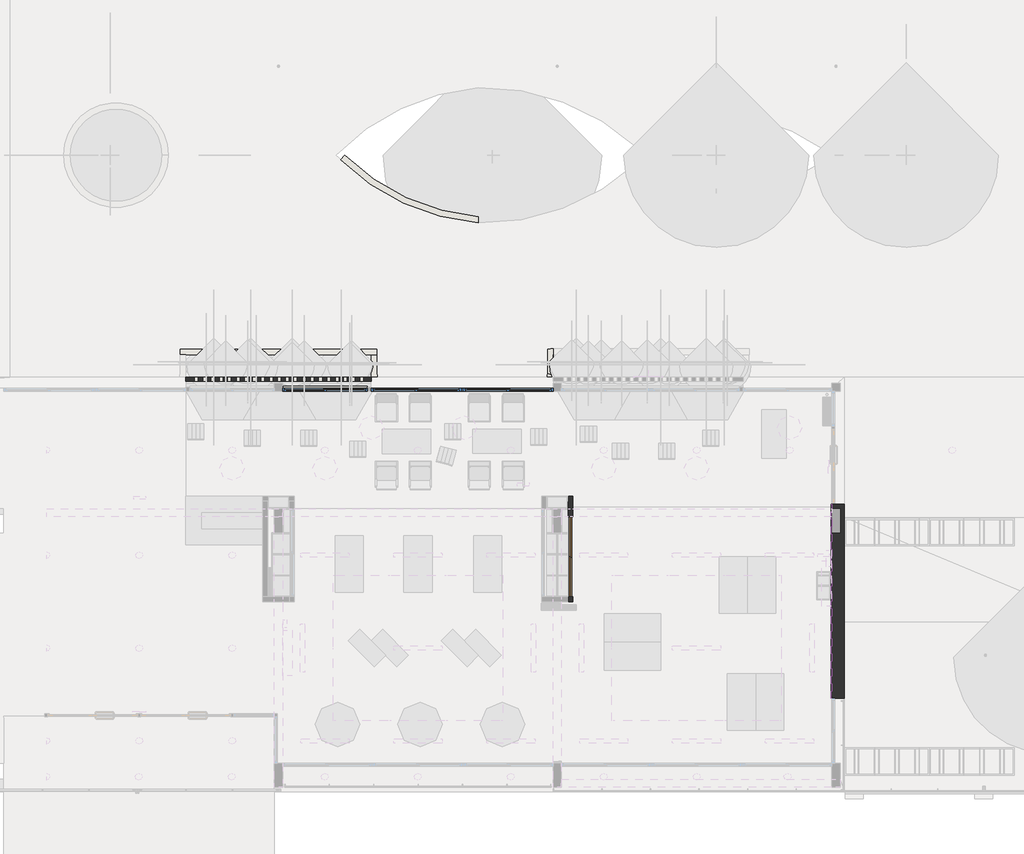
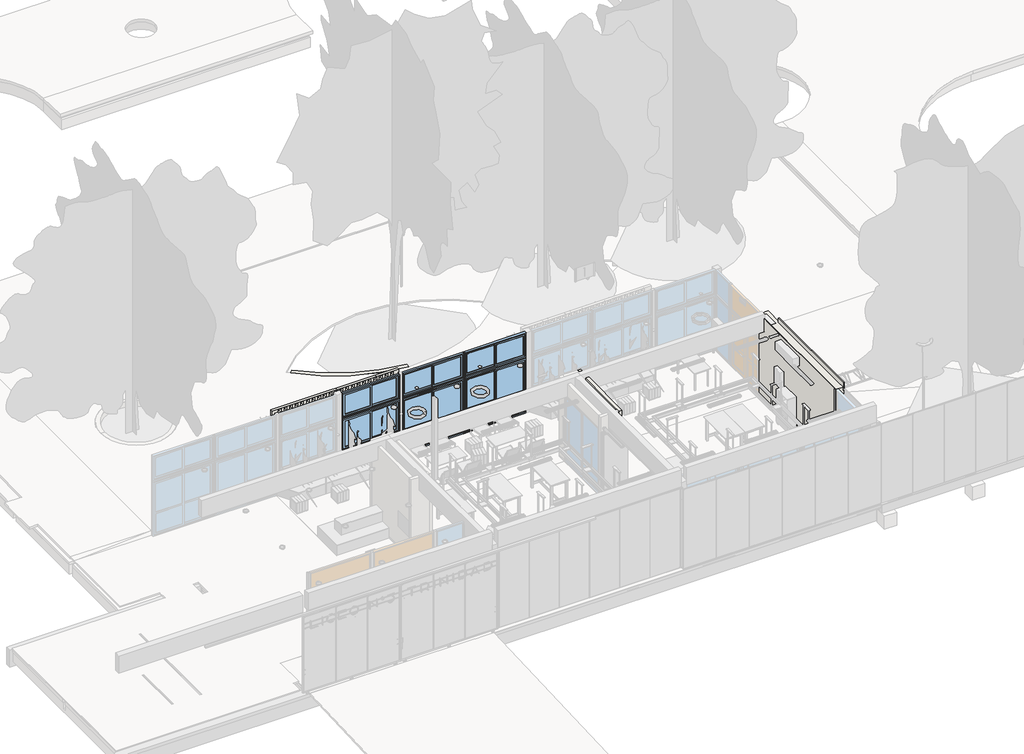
# One storey, part 3 of 22: 8 walls, 2 windows, 1 door, 1 proxy.
"""IFC4 building model written with IfcOpenShell, lengths in millimetres."""

from ifc_helpers import new_model, si_unit, point, frame, frame_2d, origin, place, context, project, spatial, polyline, circle_curve, trimmed, segment, composite_curve, outline, extrude, faceted_brep, transform, mapped, element, save
from components import door_82d90b9c, window_ea4ac452, window_7abe9f8d

model = new_model("IFC4")

# Units and contexts
model_context = context("Model", 3, world=origin())
ifc_project = project(units=[si_unit("LENGTHUNIT", "METRE", prefix="MILLI")], contexts=[model_context])

# Site, building, storey
site = spatial("IfcSite", under=ifc_project)
building = spatial("IfcBuilding", under=site)
storey = spatial("IfcBuildingStorey", under=building, Name="PLanta baja", Elevation=0.0)

# Proxy
placement = place(None, origin())
element("IfcBuildingElementProxy", 1, Name="23-TEL-JUNTA 10x10", ObjectType="23-TEL-JUNTA 10x10", at=placement, inside=storey, context=model_context, shape_type="SweptSolid", body=[
    extrude(outline(polyline([(30773.7173693, 7330.2304035), (30783.7173693, 7330.2304035), (30783.7173693, 2520.2304035), (30773.7173693, 2520.2304035), (30773.7173693, 7330.2304035)])), frame((0.0, 0.0, 3090.0), z_axis=(0.0, 0.0, 1.0), x_axis=(1.0, 0.0, 0.0)), (0.0, 0.0, 1.0), 10.0),
])

# Door
door_shape = door_82d90b9c(model_context)
element("IfcDoor", 2, ObjectType="C4 Puerta corrediza placar 2 hojas : C4.2 PUERTA CORREDIZA PLACAR 2 HOJAS 198x260", at=placement, inside=storey, context=model_context, shape_type="MappedRepresentation", body=[
    mapped(door_shape, transform((24316.2173693, 6027.0637368, 0.0), x_axis=(0.0, -1.0, 0.0), y_axis=(1.0, 0.0, 0.0), z_axis=(0.0, 0.0, 1.0))),
])

# Walls
element("IfcWall", 3, ObjectType="CORD-C2-Cordoneta adoquines-15x20cm-PET", at=placement, inside=storey, context=model_context, shape_type="SweptSolid", body=[
    extrude(outline(composite_curve([segment(polyline([(22038.7173694, 14442.9688735), (22030.4157003, 14293.1197635)]), True, "CONTINUOUS"), segment(trimmed(circle_curve(frame_2d((22514.3726379, 19820.8719266)), 5548.8970339), [point((22030.4157003, 14293.1197635))], [point((18625.8592173, 15862.3719997))], False, "CARTESIAN"), True, "CONTINUOUS"), segment(trimmed(circle_curve(frame_2d((22514.3726379, 12117.0345569)), 5398.8970339), [point((18625.8592173, 15862.3719997))], [point((18731.4092983, 15968.9532417))], False, "CARTESIAN"), True, "CONTINUOUS"), segment(trimmed(circle_curve(frame_2d((22514.3726379, 19820.8719266)), 5398.8970339), [point((18731.4092983, 15968.9532417))], [point((22038.7173694, 14442.9688735))], True, "CARTESIAN"), True, "CONTINUOUS")], self_intersect=False)), frame((0.0, 0.0, -300.0), z_axis=(0.0, 0.0, 1.0), x_axis=(1.0, 0.0, 0.0)), (0.0, 0.0, 1.0), 210.0),
])
element("IfcWall", 4, ObjectType="CORD-C2-Cordoneta adoquines-15x20cm-PET", at=placement, inside=storey, context=model_context, shape_type="Brep", body=[
    faceted_brep([(23738.7948087, 11180.2304035, -300.0), (23738.7826862, 10470.2329646, -300.0), (23738.7826862, 10470.2329646, -90.0), (23738.7843947, 10570.299798, -90.7341873), (23738.7948087, 11180.2304035, -90.7341567), (23888.7826862, 10470.2304035, -300.0), (23888.7922477, 11030.2304035, -300.0), (23888.7948088, 11180.2304035, -300.0), (23888.7948088, 11180.2304035, -90.2935262), (23888.7922477, 11030.2304035, -90.2935337), (23888.7922477, 11030.2304036, -90.0), (23888.7826862, 10470.2304035, -90.0), (23888.6074531, 10470.2304065, -90.0), (23888.6074531, 11030.2304035, -90.0), (23888.6074531, 10510.3129045, -90.2940766), (23888.6074531, 11030.2304035, -90.2940766)], [[[0, 1, 2, 3, 4]], [[5, 6, 7, 8, 9, 10, 11]], [[1, 0, 7, 6, 5]], [[2, 1, 5, 11, 12]], [[11, 10, 13, 12]], [[7, 0, 4, 8]], [[12, 14, 3, 2]], [[14, 15, 9, 8, 4, 3]], [[9, 15, 13, 10]], [[14, 12, 13, 15]]]),
])
element("IfcWall", 5, ObjectType="CORD-C2-Cordoneta adoquines-15x20cm-PET", at=placement, inside=storey, context=model_context, shape_type="Brep", body=[
    faceted_brep([(19538.7173693, 11180.2304035, -300.0), (14638.7173693, 11180.2304035, -300.0), (14638.7173693, 11180.2304035, -95.2091151), (19538.7173693, 11180.2304035, -95.2091151), (14638.7173693, 11030.2304035, -300.0), (14788.7173693, 11030.2304035, -300.0), (19388.7173693, 11030.2304035, -300.0), (19538.7173693, 11030.2304035, -300.0), (19538.7173693, 11030.2304035, -94.1085978), (19388.6181187, 11030.2304035, -94.1085978), (14788.6290214, 11030.2304035, -94.1085978), (14638.7173693, 11030.2304035, -94.1085978)], [[[0, 1, 2, 3]], [[4, 5, 6, 7, 8, 9, 10, 11]], [[1, 0, 7, 6, 5, 4]], [[1, 4, 11, 2]], [[7, 0, 3, 8]], [[3, 2, 11, 10, 9, 8]]]),
])
element("IfcWall", 6, ObjectType="CORD-C2-Cordoneta adoquines-15x20cm-PET", at=placement, inside=storey, context=model_context, shape_type="SweptSolid", body=[
    extrude(outline(polyline([(11030.2304035, -300.0), (10470.2304035, -300.0), (10470.2304035, -90.0), (11030.2304035, -94.1085978), (11030.2304035, -300.0)])), frame((19388.7173693, 0.0, 0.0), z_axis=(1.0, 0.0, 0.0), x_axis=(0.0, 1.0, 0.0)), (0.0, 0.0, 1.0), 150.0),
])
element("IfcWall", 7, ObjectType="TABI-INT/INT-M30i-11.5cm-PET", at=placement, inside=storey, context=model_context, shape_type="Brep", body=[
    faceted_brep([(24258.7173693, 5033.5637368, 0.0), (24258.7173693, 4918.5637368, 0.0), (24258.7173693, 4918.5637368, 50.0), (24258.7173693, 4918.5637368, 3100.0), (24258.7173693, 5033.5637368, 3100.0), (24258.7173693, 7020.2304035, 3100.0), (24258.7173693, 7020.2304035, 2600.0), (24258.7173693, 5033.5637368, 2600.0), (24373.7173693, 4918.5637368, 0.0), (24373.7173693, 5033.5637368, 0.0), (24373.7173693, 5033.5637368, 50.0), (24373.7173693, 5033.5637368, 2600.0), (24373.7173693, 7020.2304035, 2600.0), (24373.7173693, 7020.2304035, 3100.0), (24373.7173693, 4918.5637368, 3100.0), (24373.7173693, 4918.5637368, 50.0)], [[[0, 1, 2, 3, 4, 5, 6, 7]], [[8, 9, 10, 11, 12, 13, 14, 15]], [[8, 1, 0, 9]], [[3, 14, 13, 5, 4]], [[1, 8, 15, 14, 3, 2]], [[7, 11, 10, 9, 0]], [[11, 7, 6, 12]], [[6, 5, 13, 12]]]),
    faceted_brep([(24258.7173693, 7522.2304035, 0.0), (24258.7173693, 7407.2304035, 0.0), (24258.7173693, 7020.5637368, 0.0), (24258.7173693, 7020.5637368, 2600.0), (24258.7173693, 7220.2304035, 2600.0), (24258.7173693, 7220.2304035, 3100.0), (24258.7173693, 7407.2304035, 3100.0), (24258.7173693, 7522.2304035, 3100.0), (24373.7173693, 7020.5637368, 0.0), (24373.7173693, 7522.2304035, 0.0), (24373.7173693, 7522.2304035, 50.0), (24373.7173693, 7522.2304035, 3100.0), (24373.7173693, 7220.2304035, 3100.0), (24373.7173693, 7220.2304035, 2600.0), (24373.7173693, 7020.5637368, 2600.0), (24373.7173693, 7020.5637368, 50.0)], [[[0, 1, 2, 3, 4, 5, 6, 7]], [[8, 9, 10, 11, 12, 13, 14, 15]], [[2, 1, 0, 9, 8]], [[11, 7, 6, 5, 12]], [[3, 2, 8, 15, 14]], [[0, 7, 11, 10, 9]], [[13, 4, 3, 14]], [[4, 13, 12, 5]]]),
])
element("IfcWall", 8, ObjectType="MURO-Ladrillo hormigón calado-10cm-PET", at=placement, inside=storey, context=model_context, shape_type="SweptSolid", body=[
    extrude(outline(polyline([(-50.0, 19388.7173693), (3100.0, 19388.7173693), (3100.0, 14788.7173693), (-50.0, 14788.7173693), (-50.0, 19388.7173693)]), holes=[polyline([(3090.0, 19093.7173697), (3090.0, 19193.7173699), (2950.0, 19193.7173699), (2950.0, 19093.7173697), (3090.0, 19093.7173697)]), polyline([(3090.0, 18893.7173695), (3090.0, 18993.7173697), (2950.0, 18993.7173697), (2950.0, 18893.7173695), (3090.0, 18893.7173695)]), polyline([(3090.0, 18688.7173695), (3090.0, 18788.7173697), (2950.0, 18788.7173697), (2950.0, 18688.7173695), (3090.0, 18688.7173695)]), polyline([(3090.0, 18488.7173693), (3090.0, 18588.7173695), (2950.0, 18588.7173695), (2950.0, 18488.7173693), (3090.0, 18488.7173693)]), polyline([(3090.0, 18278.7173695), (3090.0, 18378.7173697), (2950.0, 18378.7173697), (2950.0, 18278.7173695), (3090.0, 18278.7173695)]), polyline([(3090.0, 18078.7173693), (3090.0, 18178.7173695), (2950.0, 18178.7173695), (2950.0, 18078.7173693), (3090.0, 18078.7173693)]), polyline([(3090.0, 17873.7173693), (3090.0, 17973.7173695), (2950.0, 17973.7173695), (2950.0, 17873.7173693), (3090.0, 17873.7173693)]), polyline([(3090.0, 17673.7173691), (3090.0, 17773.7173693), (2950.0, 17773.7173693), (2950.0, 17673.7173691), (3090.0, 17673.7173691)]), polyline([(3090.0, 17458.7173695), (3090.0, 17558.7173697), (2950.0, 17558.7173697), (2950.0, 17458.7173695), (3090.0, 17458.7173695)]), polyline([(3090.0, 17258.7173693), (3090.0, 17358.7173695), (2950.0, 17358.7173695), (2950.0, 17258.7173693), (3090.0, 17258.7173693)]), polyline([(3090.0, 17053.7173693), (3090.0, 17153.7173695), (2950.0, 17153.7173695), (2950.0, 17053.7173693), (3090.0, 17053.7173693)]), polyline([(3090.0, 16853.7173691), (3090.0, 16953.7173693), (2950.0, 16953.7173693), (2950.0, 16853.7173691), (3090.0, 16853.7173691)]), polyline([(3090.0, 16643.7173693), (3090.0, 16743.7173695), (2950.0, 16743.7173695), (2950.0, 16643.7173693), (3090.0, 16643.7173693)]), polyline([(3090.0, 16443.7173691), (3090.0, 16543.7173693), (2950.0, 16543.7173693), (2950.0, 16443.7173691), (3090.0, 16443.7173691)]), polyline([(3090.0, 16238.7173691), (3090.0, 16338.7173693), (2950.0, 16338.7173693), (2950.0, 16238.7173691), (3090.0, 16238.7173691)]), polyline([(3090.0, 16038.7173689), (3090.0, 16138.7173691), (2950.0, 16138.7173691), (2950.0, 16038.7173689), (3090.0, 16038.7173689)]), polyline([(3090.0, 15818.7173696), (3090.0, 15918.7173698), (2950.0, 15918.7173698), (2950.0, 15818.7173696), (3090.0, 15818.7173696)]), polyline([(3090.0, 15618.7173693), (3090.0, 15718.7173696), (2950.0, 15718.7173696), (2950.0, 15618.7173693), (3090.0, 15618.7173693)]), polyline([(3090.0, 15413.7173693), (3090.0, 15513.7173696), (2950.0, 15513.7173696), (2950.0, 15413.7173693), (3090.0, 15413.7173693)]), polyline([(3090.0, 15213.7173691), (3090.0, 15313.7173693), (2950.0, 15313.7173693), (2950.0, 15213.7173691), (3090.0, 15213.7173691)]), polyline([(3090.0, 15003.7173693), (3090.0, 15103.7173696), (2950.0, 15103.7173696), (2950.0, 15003.7173693), (3090.0, 15003.7173693)]), polyline([(2790.0, 19093.7173697), (2790.0, 19193.7173699), (2650.0, 19193.7173699), (2650.0, 19093.7173697), (2790.0, 19093.7173697)]), polyline([(2790.0, 18893.7173695), (2790.0, 18993.7173697), (2650.0, 18993.7173697), (2650.0, 18893.7173695), (2790.0, 18893.7173695)]), polyline([(2790.0, 18688.7173695), (2790.0, 18788.7173697), (2650.0, 18788.7173697), (2650.0, 18688.7173695), (2790.0, 18688.7173695)]), polyline([(2790.0, 18488.7173693), (2790.0, 18588.7173695), (2650.0, 18588.7173695), (2650.0, 18488.7173693), (2790.0, 18488.7173693)]), polyline([(2790.0, 18278.7173695), (2790.0, 18378.7173697), (2650.0, 18378.7173697), (2650.0, 18278.7173695), (2790.0, 18278.7173695)]), polyline([(2790.0, 18078.7173693), (2790.0, 18178.7173695), (2650.0, 18178.7173695), (2650.0, 18078.7173693), (2790.0, 18078.7173693)]), polyline([(2790.0, 17873.7173693), (2790.0, 17973.7173695), (2650.0, 17973.7173695), (2650.0, 17873.7173693), (2790.0, 17873.7173693)]), polyline([(2790.0, 17673.7173691), (2790.0, 17773.7173693), (2650.0, 17773.7173693), (2650.0, 17673.7173691), (2790.0, 17673.7173691)]), polyline([(2790.0, 17458.7173695), (2790.0, 17558.7173697), (2650.0, 17558.7173697), (2650.0, 17458.7173695), (2790.0, 17458.7173695)]), polyline([(2790.0, 17258.7173693), (2790.0, 17358.7173695), (2650.0, 17358.7173695), (2650.0, 17258.7173693), (2790.0, 17258.7173693)]), polyline([(2790.0, 17053.7173693), (2790.0, 17153.7173695), (2650.0, 17153.7173695), (2650.0, 17053.7173693), (2790.0, 17053.7173693)]), polyline([(2790.0, 16853.7173691), (2790.0, 16953.7173693), (2650.0, 16953.7173693), (2650.0, 16853.7173691), (2790.0, 16853.7173691)]), polyline([(2790.0, 16643.7173693), (2790.0, 16743.7173695), (2650.0, 16743.7173695), (2650.0, 16643.7173693), (2790.0, 16643.7173693)]), polyline([(2790.0, 16443.7173691), (2790.0, 16543.7173693), (2650.0, 16543.7173693), (2650.0, 16443.7173691), (2790.0, 16443.7173691)]), polyline([(2790.0, 16238.7173691), (2790.0, 16338.7173693), (2650.0, 16338.7173693), (2650.0, 16238.7173691), (2790.0, 16238.7173691)]), polyline([(2790.0, 16038.7173689), (2790.0, 16138.7173691), (2650.0, 16138.7173691), (2650.0, 16038.7173689), (2790.0, 16038.7173689)]), polyline([(2790.0, 15818.7173696), (2790.0, 15918.7173698), (2650.0, 15918.7173698), (2650.0, 15818.7173696), (2790.0, 15818.7173696)]), polyline([(2790.0, 15618.7173693), (2790.0, 15718.7173696), (2650.0, 15718.7173696), (2650.0, 15618.7173693), (2790.0, 15618.7173693)]), polyline([(2790.0, 15413.7173693), (2790.0, 15513.7173696), (2650.0, 15513.7173696), (2650.0, 15413.7173693), (2790.0, 15413.7173693)]), polyline([(2790.0, 15213.7173691), (2790.0, 15313.7173693), (2650.0, 15313.7173693), (2650.0, 15213.7173691), (2790.0, 15213.7173691)]), polyline([(2790.0, 15003.7173693), (2790.0, 15103.7173696), (2650.0, 15103.7173696), (2650.0, 15003.7173693), (2790.0, 15003.7173693)]), polyline([(2490.0, 19093.7173697), (2490.0, 19193.7173699), (2350.0, 19193.7173699), (2350.0, 19093.7173697), (2490.0, 19093.7173697)]), polyline([(2490.0, 18893.7173695), (2490.0, 18993.7173697), (2350.0, 18993.7173697), (2350.0, 18893.7173695), (2490.0, 18893.7173695)]), polyline([(2490.0, 18688.7173695), (2490.0, 18788.7173697), (2350.0, 18788.7173697), (2350.0, 18688.7173695), (2490.0, 18688.7173695)]), polyline([(2490.0, 18488.7173693), (2490.0, 18588.7173695), (2350.0, 18588.7173695), (2350.0, 18488.7173693), (2490.0, 18488.7173693)]), polyline([(2490.0, 18278.7173695), (2490.0, 18378.7173697), (2350.0, 18378.7173697), (2350.0, 18278.7173695), (2490.0, 18278.7173695)]), polyline([(2490.0, 18078.7173693), (2490.0, 18178.7173695), (2350.0, 18178.7173695), (2350.0, 18078.7173693), (2490.0, 18078.7173693)]), polyline([(2490.0, 17873.7173693), (2490.0, 17973.7173695), (2350.0, 17973.7173695), (2350.0, 17873.7173693), (2490.0, 17873.7173693)]), polyline([(2490.0, 17673.7173691), (2490.0, 17773.7173693), (2350.0, 17773.7173693), (2350.0, 17673.7173691), (2490.0, 17673.7173691)]), polyline([(2490.0, 17458.7173695), (2490.0, 17558.7173697), (2350.0, 17558.7173697), (2350.0, 17458.7173695), (2490.0, 17458.7173695)]), polyline([(2490.0, 17258.7173693), (2490.0, 17358.7173695), (2350.0, 17358.7173695), (2350.0, 17258.7173693), (2490.0, 17258.7173693)]), polyline([(2490.0, 17053.7173693), (2490.0, 17153.7173695), (2350.0, 17153.7173695), (2350.0, 17053.7173693), (2490.0, 17053.7173693)]), polyline([(2490.0, 16853.7173691), (2490.0, 16953.7173693), (2350.0, 16953.7173693), (2350.0, 16853.7173691), (2490.0, 16853.7173691)]), polyline([(2490.0, 16643.7173693), (2490.0, 16743.7173695), (2350.0, 16743.7173695), (2350.0, 16643.7173693), (2490.0, 16643.7173693)]), polyline([(2490.0, 16443.7173691), (2490.0, 16543.7173693), (2350.0, 16543.7173693), (2350.0, 16443.7173691), (2490.0, 16443.7173691)]), polyline([(2490.0, 16238.7173691), (2490.0, 16338.7173693), (2350.0, 16338.7173693), (2350.0, 16238.7173691), (2490.0, 16238.7173691)]), polyline([(2490.0, 16038.7173689), (2490.0, 16138.7173691), (2350.0, 16138.7173691), (2350.0, 16038.7173689), (2490.0, 16038.7173689)]), polyline([(2490.0, 15818.7173696), (2490.0, 15918.7173698), (2350.0, 15918.7173698), (2350.0, 15818.7173696), (2490.0, 15818.7173696)]), polyline([(2490.0, 15618.7173693), (2490.0, 15718.7173696), (2350.0, 15718.7173696), (2350.0, 15618.7173693), (2490.0, 15618.7173693)]), polyline([(2490.0, 15413.7173693), (2490.0, 15513.7173696), (2350.0, 15513.7173696), (2350.0, 15413.7173693), (2490.0, 15413.7173693)]), polyline([(2490.0, 15213.7173691), (2490.0, 15313.7173693), (2350.0, 15313.7173693), (2350.0, 15213.7173691), (2490.0, 15213.7173691)]), polyline([(2490.0, 15003.7173693), (2490.0, 15103.7173696), (2350.0, 15103.7173696), (2350.0, 15003.7173693), (2490.0, 15003.7173693)]), polyline([(2190.0, 19093.7173697), (2190.0, 19193.7173699), (2050.0, 19193.7173699), (2050.0, 19093.7173697), (2190.0, 19093.7173697)]), polyline([(2190.0, 18893.7173695), (2190.0, 18993.7173697), (2050.0, 18993.7173697), (2050.0, 18893.7173695), (2190.0, 18893.7173695)]), polyline([(2190.0, 18688.7173695), (2190.0, 18788.7173697), (2050.0, 18788.7173697), (2050.0, 18688.7173695), (2190.0, 18688.7173695)]), polyline([(2190.0, 18488.7173693), (2190.0, 18588.7173695), (2050.0, 18588.7173695), (2050.0, 18488.7173693), (2190.0, 18488.7173693)]), polyline([(2190.0, 18278.7173695), (2190.0, 18378.7173697), (2050.0, 18378.7173697), (2050.0, 18278.7173695), (2190.0, 18278.7173695)]), polyline([(2190.0, 18078.7173693), (2190.0, 18178.7173695), (2050.0, 18178.7173695), (2050.0, 18078.7173693), (2190.0, 18078.7173693)]), polyline([(2190.0, 17873.7173693), (2190.0, 17973.7173695), (2050.0, 17973.7173695), (2050.0, 17873.7173693), (2190.0, 17873.7173693)]), polyline([(2190.0, 17673.7173691), (2190.0, 17773.7173693), (2050.0, 17773.7173693), (2050.0, 17673.7173691), (2190.0, 17673.7173691)]), polyline([(2190.0, 17458.7173695), (2190.0, 17558.7173697), (2050.0, 17558.7173697), (2050.0, 17458.7173695), (2190.0, 17458.7173695)]), polyline([(2190.0, 17258.7173693), (2190.0, 17358.7173695), (2050.0, 17358.7173695), (2050.0, 17258.7173693), (2190.0, 17258.7173693)]), polyline([(2190.0, 17053.7173693), (2190.0, 17153.7173695), (2050.0, 17153.7173695), (2050.0, 17053.7173693), (2190.0, 17053.7173693)]), polyline([(2190.0, 16853.7173691), (2190.0, 16953.7173693), (2050.0, 16953.7173693), (2050.0, 16853.7173691), (2190.0, 16853.7173691)]), polyline([(2190.0, 16643.7173693), (2190.0, 16743.7173695), (2050.0, 16743.7173695), (2050.0, 16643.7173693), (2190.0, 16643.7173693)]), polyline([(2190.0, 16443.7173691), (2190.0, 16543.7173693), (2050.0, 16543.7173693), (2050.0, 16443.7173691), (2190.0, 16443.7173691)]), polyline([(2190.0, 16238.7173691), (2190.0, 16338.7173693), (2050.0, 16338.7173693), (2050.0, 16238.7173691), (2190.0, 16238.7173691)]), polyline([(2190.0, 16038.7173689), (2190.0, 16138.7173691), (2050.0, 16138.7173691), (2050.0, 16038.7173689), (2190.0, 16038.7173689)]), polyline([(2190.0, 15818.7173696), (2190.0, 15918.7173698), (2050.0, 15918.7173698), (2050.0, 15818.7173696), (2190.0, 15818.7173696)]), polyline([(2190.0, 15618.7173693), (2190.0, 15718.7173696), (2050.0, 15718.7173696), (2050.0, 15618.7173693), (2190.0, 15618.7173693)]), polyline([(2190.0, 15413.7173693), (2190.0, 15513.7173696), (2050.0, 15513.7173696), (2050.0, 15413.7173693), (2190.0, 15413.7173693)]), polyline([(2190.0, 15213.7173691), (2190.0, 15313.7173693), (2050.0, 15313.7173693), (2050.0, 15213.7173691), (2190.0, 15213.7173691)]), polyline([(2190.0, 15003.7173693), (2190.0, 15103.7173696), (2050.0, 15103.7173696), (2050.0, 15003.7173693), (2190.0, 15003.7173693)]), polyline([(1890.0, 19093.7173697), (1890.0, 19193.7173699), (1750.0, 19193.7173699), (1750.0, 19093.7173697), (1890.0, 19093.7173697)]), polyline([(1890.0, 18893.7173695), (1890.0, 18993.7173697), (1750.0, 18993.7173697), (1750.0, 18893.7173695), (1890.0, 18893.7173695)]), polyline([(1890.0, 18688.7173695), (1890.0, 18788.7173697), (1750.0, 18788.7173697), (1750.0, 18688.7173695), (1890.0, 18688.7173695)]), polyline([(1890.0, 18488.7173693), (1890.0, 18588.7173695), (1750.0, 18588.7173695), (1750.0, 18488.7173693), (1890.0, 18488.7173693)]), polyline([(1890.0, 18278.7173695), (1890.0, 18378.7173697), (1750.0, 18378.7173697), (1750.0, 18278.7173695), (1890.0, 18278.7173695)]), polyline([(1890.0, 18078.7173693), (1890.0, 18178.7173695), (1750.0, 18178.7173695), (1750.0, 18078.7173693), (1890.0, 18078.7173693)]), polyline([(1890.0, 17873.7173693), (1890.0, 17973.7173695), (1750.0, 17973.7173695), (1750.0, 17873.7173693), (1890.0, 17873.7173693)]), polyline([(1890.0, 17673.7173691), (1890.0, 17773.7173693), (1750.0, 17773.7173693), (1750.0, 17673.7173691), (1890.0, 17673.7173691)]), polyline([(1890.0, 17458.7173695), (1890.0, 17558.7173697), (1750.0, 17558.7173697), (1750.0, 17458.7173695), (1890.0, 17458.7173695)]), polyline([(1890.0, 17258.7173693), (1890.0, 17358.7173695), (1750.0, 17358.7173695), (1750.0, 17258.7173693), (1890.0, 17258.7173693)]), polyline([(1890.0, 17053.7173693), (1890.0, 17153.7173695), (1750.0, 17153.7173695), (1750.0, 17053.7173693), (1890.0, 17053.7173693)]), polyline([(1890.0, 16853.7173691), (1890.0, 16953.7173693), (1750.0, 16953.7173693), (1750.0, 16853.7173691), (1890.0, 16853.7173691)]), polyline([(1890.0, 16643.7173693), (1890.0, 16743.7173695), (1750.0, 16743.7173695), (1750.0, 16643.7173693), (1890.0, 16643.7173693)]), polyline([(1890.0, 16443.7173691), (1890.0, 16543.7173693), (1750.0, 16543.7173693), (1750.0, 16443.7173691), (1890.0, 16443.7173691)]), polyline([(1890.0, 16238.7173691), (1890.0, 16338.7173693), (1750.0, 16338.7173693), (1750.0, 16238.7173691), (1890.0, 16238.7173691)]), polyline([(1890.0, 16038.7173689), (1890.0, 16138.7173691), (1750.0, 16138.7173691), (1750.0, 16038.7173689), (1890.0, 16038.7173689)]), polyline([(1890.0, 15818.7173696), (1890.0, 15918.7173698), (1750.0, 15918.7173698), (1750.0, 15818.7173696), (1890.0, 15818.7173696)]), polyline([(1890.0, 15618.7173693), (1890.0, 15718.7173696), (1750.0, 15718.7173696), (1750.0, 15618.7173693), (1890.0, 15618.7173693)]), polyline([(1890.0, 15413.7173693), (1890.0, 15513.7173696), (1750.0, 15513.7173696), (1750.0, 15413.7173693), (1890.0, 15413.7173693)]), polyline([(1890.0, 15213.7173691), (1890.0, 15313.7173693), (1750.0, 15313.7173693), (1750.0, 15213.7173691), (1890.0, 15213.7173691)]), polyline([(1890.0, 15003.7173693), (1890.0, 15103.7173696), (1750.0, 15103.7173696), (1750.0, 15003.7173693), (1890.0, 15003.7173693)]), polyline([(1590.0, 19093.7173697), (1590.0, 19193.7173699), (1450.0, 19193.7173699), (1450.0, 19093.7173697), (1590.0, 19093.7173697)]), polyline([(1590.0, 18893.7173695), (1590.0, 18993.7173697), (1450.0, 18993.7173697), (1450.0, 18893.7173695), (1590.0, 18893.7173695)]), polyline([(1590.0, 18688.7173695), (1590.0, 18788.7173697), (1450.0, 18788.7173697), (1450.0, 18688.7173695), (1590.0, 18688.7173695)]), polyline([(1590.0, 18488.7173693), (1590.0, 18588.7173695), (1450.0, 18588.7173695), (1450.0, 18488.7173693), (1590.0, 18488.7173693)]), polyline([(1590.0, 18278.7173695), (1590.0, 18378.7173697), (1450.0, 18378.7173697), (1450.0, 18278.7173695), (1590.0, 18278.7173695)]), polyline([(1590.0, 18078.7173693), (1590.0, 18178.7173695), (1450.0, 18178.7173695), (1450.0, 18078.7173693), (1590.0, 18078.7173693)]), polyline([(1590.0, 17873.7173693), (1590.0, 17973.7173695), (1450.0, 17973.7173695), (1450.0, 17873.7173693), (1590.0, 17873.7173693)]), polyline([(1590.0, 17673.7173691), (1590.0, 17773.7173693), (1450.0, 17773.7173693), (1450.0, 17673.7173691), (1590.0, 17673.7173691)]), polyline([(1590.0, 17458.7173695), (1590.0, 17558.7173697), (1450.0, 17558.7173697), (1450.0, 17458.7173695), (1590.0, 17458.7173695)]), polyline([(1590.0, 17258.7173693), (1590.0, 17358.7173695), (1450.0, 17358.7173695), (1450.0, 17258.7173693), (1590.0, 17258.7173693)]), polyline([(1590.0, 17053.7173693), (1590.0, 17153.7173695), (1450.0, 17153.7173695), (1450.0, 17053.7173693), (1590.0, 17053.7173693)]), polyline([(1590.0, 16853.7173691), (1590.0, 16953.7173693), (1450.0, 16953.7173693), (1450.0, 16853.7173691), (1590.0, 16853.7173691)]), polyline([(1590.0, 16643.7173693), (1590.0, 16743.7173695), (1450.0, 16743.7173695), (1450.0, 16643.7173693), (1590.0, 16643.7173693)]), polyline([(1590.0, 16443.7173691), (1590.0, 16543.7173693), (1450.0, 16543.7173693), (1450.0, 16443.7173691), (1590.0, 16443.7173691)]), polyline([(1590.0, 16238.7173691), (1590.0, 16338.7173693), (1450.0, 16338.7173693), (1450.0, 16238.7173691), (1590.0, 16238.7173691)]), polyline([(1590.0, 16038.7173689), (1590.0, 16138.7173691), (1450.0, 16138.7173691), (1450.0, 16038.7173689), (1590.0, 16038.7173689)]), polyline([(1590.0, 15818.7173696), (1590.0, 15918.7173698), (1450.0, 15918.7173698), (1450.0, 15818.7173696), (1590.0, 15818.7173696)]), polyline([(1590.0, 15618.7173693), (1590.0, 15718.7173696), (1450.0, 15718.7173696), (1450.0, 15618.7173693), (1590.0, 15618.7173693)]), polyline([(1590.0, 15413.7173693), (1590.0, 15513.7173696), (1450.0, 15513.7173696), (1450.0, 15413.7173693), (1590.0, 15413.7173693)]), polyline([(1590.0, 15213.7173691), (1590.0, 15313.7173693), (1450.0, 15313.7173693), (1450.0, 15213.7173691), (1590.0, 15213.7173691)]), polyline([(1590.0, 15003.7173693), (1590.0, 15103.7173696), (1450.0, 15103.7173696), (1450.0, 15003.7173693), (1590.0, 15003.7173693)]), polyline([(1290.0, 19093.7173697), (1290.0, 19193.7173699), (1150.0, 19193.7173699), (1150.0, 19093.7173697), (1290.0, 19093.7173697)]), polyline([(1290.0, 18893.7173695), (1290.0, 18993.7173697), (1150.0, 18993.7173697), (1150.0, 18893.7173695), (1290.0, 18893.7173695)]), polyline([(1290.0, 18688.7173695), (1290.0, 18788.7173697), (1150.0, 18788.7173697), (1150.0, 18688.7173695), (1290.0, 18688.7173695)]), polyline([(1290.0, 18488.7173693), (1290.0, 18588.7173695), (1150.0, 18588.7173695), (1150.0, 18488.7173693), (1290.0, 18488.7173693)]), polyline([(1290.0, 18278.7173695), (1290.0, 18378.7173697), (1150.0, 18378.7173697), (1150.0, 18278.7173695), (1290.0, 18278.7173695)]), polyline([(1290.0, 18078.7173693), (1290.0, 18178.7173695), (1150.0, 18178.7173695), (1150.0, 18078.7173693), (1290.0, 18078.7173693)]), polyline([(1290.0, 17873.7173693), (1290.0, 17973.7173695), (1150.0, 17973.7173695), (1150.0, 17873.7173693), (1290.0, 17873.7173693)]), polyline([(1290.0, 17673.7173691), (1290.0, 17773.7173693), (1150.0, 17773.7173693), (1150.0, 17673.7173691), (1290.0, 17673.7173691)]), polyline([(1290.0, 17458.7173695), (1290.0, 17558.7173697), (1150.0, 17558.7173697), (1150.0, 17458.7173695), (1290.0, 17458.7173695)]), polyline([(1290.0, 17258.7173693), (1290.0, 17358.7173695), (1150.0, 17358.7173695), (1150.0, 17258.7173693), (1290.0, 17258.7173693)]), polyline([(1290.0, 17053.7173693), (1290.0, 17153.7173695), (1150.0, 17153.7173695), (1150.0, 17053.7173693), (1290.0, 17053.7173693)]), polyline([(1290.0, 16853.7173691), (1290.0, 16953.7173693), (1150.0, 16953.7173693), (1150.0, 16853.7173691), (1290.0, 16853.7173691)]), polyline([(1290.0, 16643.7173693), (1290.0, 16743.7173695), (1150.0, 16743.7173695), (1150.0, 16643.7173693), (1290.0, 16643.7173693)]), polyline([(1290.0, 16443.7173691), (1290.0, 16543.7173693), (1150.0, 16543.7173693), (1150.0, 16443.7173691), (1290.0, 16443.7173691)]), polyline([(1290.0, 16238.7173691), (1290.0, 16338.7173693), (1150.0, 16338.7173693), (1150.0, 16238.7173691), (1290.0, 16238.7173691)]), polyline([(1290.0, 16038.7173689), (1290.0, 16138.7173691), (1150.0, 16138.7173691), (1150.0, 16038.7173689), (1290.0, 16038.7173689)]), polyline([(1290.0, 15818.7173696), (1290.0, 15918.7173698), (1150.0, 15918.7173698), (1150.0, 15818.7173696), (1290.0, 15818.7173696)]), polyline([(1290.0, 15618.7173693), (1290.0, 15718.7173696), (1150.0, 15718.7173696), (1150.0, 15618.7173693), (1290.0, 15618.7173693)]), polyline([(1290.0, 15413.7173693), (1290.0, 15513.7173696), (1150.0, 15513.7173696), (1150.0, 15413.7173693), (1290.0, 15413.7173693)]), polyline([(1290.0, 15213.7173691), (1290.0, 15313.7173693), (1150.0, 15313.7173693), (1150.0, 15213.7173691), (1290.0, 15213.7173691)]), polyline([(1290.0, 15003.7173693), (1290.0, 15103.7173696), (1150.0, 15103.7173696), (1150.0, 15003.7173693), (1290.0, 15003.7173693)]), polyline([(990.0, 19093.7173697), (990.0, 19193.7173699), (850.0, 19193.7173699), (850.0, 19093.7173697), (990.0, 19093.7173697)]), polyline([(990.0, 18893.7173695), (990.0, 18993.7173697), (850.0, 18993.7173697), (850.0, 18893.7173695), (990.0, 18893.7173695)]), polyline([(990.0, 18688.7173695), (990.0, 18788.7173697), (850.0, 18788.7173697), (850.0, 18688.7173695), (990.0, 18688.7173695)]), polyline([(990.0, 18488.7173693), (990.0, 18588.7173695), (850.0, 18588.7173695), (850.0, 18488.7173693), (990.0, 18488.7173693)]), polyline([(990.0, 18278.7173695), (990.0, 18378.7173697), (850.0, 18378.7173697), (850.0, 18278.7173695), (990.0, 18278.7173695)]), polyline([(990.0, 18078.7173693), (990.0, 18178.7173695), (850.0, 18178.7173695), (850.0, 18078.7173693), (990.0, 18078.7173693)]), polyline([(990.0, 17873.7173693), (990.0, 17973.7173695), (850.0, 17973.7173695), (850.0, 17873.7173693), (990.0, 17873.7173693)]), polyline([(990.0, 17673.7173691), (990.0, 17773.7173693), (850.0, 17773.7173693), (850.0, 17673.7173691), (990.0, 17673.7173691)]), polyline([(990.0, 17458.7173695), (990.0, 17558.7173697), (850.0, 17558.7173697), (850.0, 17458.7173695), (990.0, 17458.7173695)]), polyline([(990.0, 17258.7173693), (990.0, 17358.7173695), (850.0, 17358.7173695), (850.0, 17258.7173693), (990.0, 17258.7173693)]), polyline([(990.0, 17053.7173693), (990.0, 17153.7173695), (850.0, 17153.7173695), (850.0, 17053.7173693), (990.0, 17053.7173693)]), polyline([(990.0, 16853.7173691), (990.0, 16953.7173693), (850.0, 16953.7173693), (850.0, 16853.7173691), (990.0, 16853.7173691)]), polyline([(990.0, 16643.7173693), (990.0, 16743.7173695), (850.0, 16743.7173695), (850.0, 16643.7173693), (990.0, 16643.7173693)]), polyline([(990.0, 16443.7173691), (990.0, 16543.7173693), (850.0, 16543.7173693), (850.0, 16443.7173691), (990.0, 16443.7173691)]), polyline([(990.0, 16238.7173691), (990.0, 16338.7173693), (850.0, 16338.7173693), (850.0, 16238.7173691), (990.0, 16238.7173691)]), polyline([(990.0, 16038.7173689), (990.0, 16138.7173691), (850.0, 16138.7173691), (850.0, 16038.7173689), (990.0, 16038.7173689)]), polyline([(990.0, 15818.7173696), (990.0, 15918.7173698), (850.0, 15918.7173698), (850.0, 15818.7173696), (990.0, 15818.7173696)]), polyline([(990.0, 15618.7173693), (990.0, 15718.7173696), (850.0, 15718.7173696), (850.0, 15618.7173693), (990.0, 15618.7173693)]), polyline([(990.0, 15413.7173693), (990.0, 15513.7173696), (850.0, 15513.7173696), (850.0, 15413.7173693), (990.0, 15413.7173693)]), polyline([(990.0, 15213.7173691), (990.0, 15313.7173693), (850.0, 15313.7173693), (850.0, 15213.7173691), (990.0, 15213.7173691)]), polyline([(990.0, 15003.7173693), (990.0, 15103.7173696), (850.0, 15103.7173696), (850.0, 15003.7173693), (990.0, 15003.7173693)]), polyline([(690.0, 19093.7173697), (690.0, 19193.7173699), (550.0, 19193.7173699), (550.0, 19093.7173697), (690.0, 19093.7173697)]), polyline([(690.0, 18893.7173695), (690.0, 18993.7173697), (550.0, 18993.7173697), (550.0, 18893.7173695), (690.0, 18893.7173695)]), polyline([(690.0, 18688.7173695), (690.0, 18788.7173697), (550.0, 18788.7173697), (550.0, 18688.7173695), (690.0, 18688.7173695)]), polyline([(690.0, 18488.7173693), (690.0, 18588.7173695), (550.0, 18588.7173695), (550.0, 18488.7173693), (690.0, 18488.7173693)]), polyline([(690.0, 18278.7173695), (690.0, 18378.7173697), (550.0, 18378.7173697), (550.0, 18278.7173695), (690.0, 18278.7173695)]), polyline([(690.0, 18078.7173693), (690.0, 18178.7173695), (550.0, 18178.7173695), (550.0, 18078.7173693), (690.0, 18078.7173693)]), polyline([(690.0, 17873.7173693), (690.0, 17973.7173695), (550.0, 17973.7173695), (550.0, 17873.7173693), (690.0, 17873.7173693)]), polyline([(690.0, 17673.7173691), (690.0, 17773.7173693), (550.0, 17773.7173693), (550.0, 17673.7173691), (690.0, 17673.7173691)]), polyline([(690.0, 17458.7173695), (690.0, 17558.7173697), (550.0, 17558.7173697), (550.0, 17458.7173695), (690.0, 17458.7173695)]), polyline([(690.0, 17258.7173693), (690.0, 17358.7173695), (550.0, 17358.7173695), (550.0, 17258.7173693), (690.0, 17258.7173693)]), polyline([(690.0, 17053.7173693), (690.0, 17153.7173695), (550.0, 17153.7173695), (550.0, 17053.7173693), (690.0, 17053.7173693)]), polyline([(690.0, 16853.7173691), (690.0, 16953.7173693), (550.0, 16953.7173693), (550.0, 16853.7173691), (690.0, 16853.7173691)]), polyline([(690.0, 16643.7173693), (690.0, 16743.7173695), (550.0, 16743.7173695), (550.0, 16643.7173693), (690.0, 16643.7173693)]), polyline([(690.0, 16443.7173691), (690.0, 16543.7173693), (550.0, 16543.7173693), (550.0, 16443.7173691), (690.0, 16443.7173691)]), polyline([(690.0, 16238.7173691), (690.0, 16338.7173693), (550.0, 16338.7173693), (550.0, 16238.7173691), (690.0, 16238.7173691)]), polyline([(690.0, 16038.7173689), (690.0, 16138.7173691), (550.0, 16138.7173691), (550.0, 16038.7173689), (690.0, 16038.7173689)]), polyline([(690.0, 15818.7173696), (690.0, 15918.7173698), (550.0, 15918.7173698), (550.0, 15818.7173696), (690.0, 15818.7173696)]), polyline([(690.0, 15618.7173693), (690.0, 15718.7173696), (550.0, 15718.7173696), (550.0, 15618.7173693), (690.0, 15618.7173693)]), polyline([(690.0, 15413.7173693), (690.0, 15513.7173696), (550.0, 15513.7173696), (550.0, 15413.7173693), (690.0, 15413.7173693)]), polyline([(690.0, 15213.7173691), (690.0, 15313.7173693), (550.0, 15313.7173693), (550.0, 15213.7173691), (690.0, 15213.7173691)]), polyline([(690.0, 15003.7173693), (690.0, 15103.7173696), (550.0, 15103.7173696), (550.0, 15003.7173693), (690.0, 15003.7173693)]), polyline([(390.0, 19093.7173697), (390.0, 19193.7173699), (250.0, 19193.7173699), (250.0, 19093.7173697), (390.0, 19093.7173697)]), polyline([(390.0, 18893.7173695), (390.0, 18993.7173697), (250.0, 18993.7173697), (250.0, 18893.7173695), (390.0, 18893.7173695)]), polyline([(390.0, 18688.7173695), (390.0, 18788.7173697), (250.0, 18788.7173697), (250.0, 18688.7173695), (390.0, 18688.7173695)]), polyline([(390.0, 18488.7173693), (390.0, 18588.7173695), (250.0, 18588.7173695), (250.0, 18488.7173693), (390.0, 18488.7173693)]), polyline([(390.0, 18278.7173695), (390.0, 18378.7173697), (250.0, 18378.7173697), (250.0, 18278.7173695), (390.0, 18278.7173695)]), polyline([(390.0, 18078.7173693), (390.0, 18178.7173695), (250.0, 18178.7173695), (250.0, 18078.7173693), (390.0, 18078.7173693)]), polyline([(390.0, 17873.7173693), (390.0, 17973.7173695), (250.0, 17973.7173695), (250.0, 17873.7173693), (390.0, 17873.7173693)]), polyline([(390.0, 17673.7173691), (390.0, 17773.7173693), (250.0, 17773.7173693), (250.0, 17673.7173691), (390.0, 17673.7173691)]), polyline([(390.0, 17458.7173695), (390.0, 17558.7173697), (250.0, 17558.7173697), (250.0, 17458.7173695), (390.0, 17458.7173695)]), polyline([(390.0, 17258.7173693), (390.0, 17358.7173695), (250.0, 17358.7173695), (250.0, 17258.7173693), (390.0, 17258.7173693)]), polyline([(390.0, 17053.7173693), (390.0, 17153.7173695), (250.0, 17153.7173695), (250.0, 17053.7173693), (390.0, 17053.7173693)]), polyline([(390.0, 16853.7173691), (390.0, 16953.7173693), (250.0, 16953.7173693), (250.0, 16853.7173691), (390.0, 16853.7173691)]), polyline([(390.0, 16643.7173693), (390.0, 16743.7173695), (250.0, 16743.7173695), (250.0, 16643.7173693), (390.0, 16643.7173693)]), polyline([(390.0, 16443.7173691), (390.0, 16543.7173693), (250.0, 16543.7173693), (250.0, 16443.7173691), (390.0, 16443.7173691)]), polyline([(390.0, 16238.7173691), (390.0, 16338.7173693), (250.0, 16338.7173693), (250.0, 16238.7173691), (390.0, 16238.7173691)]), polyline([(390.0, 16038.7173689), (390.0, 16138.7173691), (250.0, 16138.7173691), (250.0, 16038.7173689), (390.0, 16038.7173689)]), polyline([(390.0, 15818.7173696), (390.0, 15918.7173698), (250.0, 15918.7173698), (250.0, 15818.7173696), (390.0, 15818.7173696)]), polyline([(390.0, 15618.7173693), (390.0, 15718.7173696), (250.0, 15718.7173696), (250.0, 15618.7173693), (390.0, 15618.7173693)]), polyline([(390.0, 15413.7173693), (390.0, 15513.7173696), (250.0, 15513.7173696), (250.0, 15413.7173693), (390.0, 15413.7173693)]), polyline([(390.0, 15213.7173691), (390.0, 15313.7173693), (250.0, 15313.7173693), (250.0, 15213.7173691), (390.0, 15213.7173691)]), polyline([(390.0, 15003.7173693), (390.0, 15103.7173696), (250.0, 15103.7173696), (250.0, 15003.7173693), (390.0, 15003.7173693)]), polyline([(90.0, 19093.7173697), (90.0, 19193.7173699), (-40.0, 19193.7173699), (-40.0, 19093.7173697), (90.0, 19093.7173697)]), polyline([(90.0, 18893.7173695), (90.0, 18993.7173697), (-40.0, 18993.7173697), (-40.0, 18893.7173695), (90.0, 18893.7173695)]), polyline([(90.0, 18688.7173695), (90.0, 18788.7173697), (-40.0, 18788.7173697), (-40.0, 18688.7173695), (90.0, 18688.7173695)]), polyline([(90.0, 18488.7173693), (90.0, 18588.7173695), (-40.0, 18588.7173695), (-40.0, 18488.7173693), (90.0, 18488.7173693)]), polyline([(90.0, 18278.7173695), (90.0, 18378.7173697), (-40.0, 18378.7173697), (-40.0, 18278.7173695), (90.0, 18278.7173695)]), polyline([(90.0, 18078.7173693), (90.0, 18178.7173695), (-40.0, 18178.7173695), (-40.0, 18078.7173693), (90.0, 18078.7173693)]), polyline([(90.0, 17873.7173693), (90.0, 17973.7173695), (-40.0, 17973.7173695), (-40.0, 17873.7173693), (90.0, 17873.7173693)]), polyline([(90.0, 17673.7173691), (90.0, 17773.7173693), (-40.0, 17773.7173693), (-40.0, 17673.7173691), (90.0, 17673.7173691)]), polyline([(90.0, 17458.7173695), (90.0, 17558.7173697), (-40.0, 17558.7173697), (-40.0, 17458.7173695), (90.0, 17458.7173695)]), polyline([(90.0, 17258.7173693), (90.0, 17358.7173695), (-40.0, 17358.7173695), (-40.0, 17258.7173693), (90.0, 17258.7173693)]), polyline([(90.0, 17053.7173693), (90.0, 17153.7173695), (-40.0, 17153.7173695), (-40.0, 17053.7173693), (90.0, 17053.7173693)]), polyline([(90.0, 16853.7173691), (90.0, 16953.7173693), (-40.0, 16953.7173693), (-40.0, 16853.7173691), (90.0, 16853.7173691)]), polyline([(90.0, 16643.7173693), (90.0, 16743.7173695), (-40.0, 16743.7173695), (-40.0, 16643.7173693), (90.0, 16643.7173693)]), polyline([(90.0, 16443.7173691), (90.0, 16543.7173693), (-40.0, 16543.7173693), (-40.0, 16443.7173691), (90.0, 16443.7173691)]), polyline([(90.0, 16238.7173691), (90.0, 16338.7173693), (-40.0, 16338.7173693), (-40.0, 16238.7173691), (90.0, 16238.7173691)]), polyline([(90.0, 16038.7173689), (90.0, 16138.7173691), (-40.0, 16138.7173691), (-40.0, 16038.7173689), (90.0, 16038.7173689)]), polyline([(90.0, 15818.7173696), (90.0, 15918.7173698), (-40.0, 15918.7173698), (-40.0, 15818.7173696), (90.0, 15818.7173696)]), polyline([(90.0, 15618.7173693), (90.0, 15718.7173696), (-40.0, 15718.7173696), (-40.0, 15618.7173693), (90.0, 15618.7173693)]), polyline([(90.0, 15413.7173693), (90.0, 15513.7173696), (-40.0, 15513.7173696), (-40.0, 15413.7173693), (90.0, 15413.7173693)]), polyline([(90.0, 15213.7173691), (90.0, 15313.7173693), (-40.0, 15313.7173693), (-40.0, 15213.7173691), (90.0, 15213.7173691)]), polyline([(90.0, 15003.7173693), (90.0, 15103.7173696), (-40.0, 15103.7173696), (-40.0, 15003.7173693), (90.0, 15003.7173693)])]), frame((0.0, 10370.2304035, 0.0), z_axis=(0.0, 1.0, 0.0), x_axis=(0.0, 0.0, 1.0)), (0.0, 0.0, 1.0), 100.0),
])
element("IfcWall", 9, ObjectType="MURO-EXT/INT-M1a-32.5cm-PET", at=placement, inside=storey, context=model_context, shape_type="Brep", body=[
    faceted_brep([(30773.7173693, 7330.2304035, -50.0), (30773.7173693, 2520.2304035, -50.0), (30773.7173693, 2520.2304035, 3090.0), (30773.7173693, 7020.2304035, 3090.0), (30773.7173693, 7020.2304035, 2600.0), (30773.7173693, 7220.2304035, 2600.0), (30773.7173693, 7220.2304035, 3090.0), (30773.7173693, 7330.2304035, 3090.0), (31098.7173693, 2520.2304035, -50.0), (31098.7173693, 7330.2304035, -50.0), (31098.7173693, 7330.2304035, 3100.0), (31098.7173693, 6620.2304035, 3100.0), (31098.7173693, 6620.2304035, 3260.0), (31098.7173693, 2520.2304035, 3260.0), (31098.7173693, 2520.2304035, 3100.0), (30988.7173693, 7220.2304035, -50.0), (30788.7173693, 7220.2304035, -50.0), (30788.7173693, 6620.2304035, -50.0), (30988.7173693, 6620.2304035, -50.0), (31048.7173693, 2520.2304035, 3260.0), (31048.7173693, 2520.2304035, 3100.0), (30783.7173693, 2520.2304035, 3100.0), (30783.7173693, 2520.2304035, 3090.0), (31048.7173693, 6620.2304035, 3260.0), (30783.7173693, 7330.2304035, 3090.0), (30783.7173693, 7330.2304035, 3100.0), (30988.7173693, 7220.2304035, 3100.0), (30788.7173693, 7220.2304035, 3100.0), (30783.7173693, 7220.2304035, 3100.0), (30783.7173693, 7220.2304035, 3090.0), (30788.7173693, 7220.2304035, 2600.0), (30788.7173693, 6620.2304035, 3100.0), (30788.7173693, 7020.2304035, 2600.0), (30788.7173693, 7020.2304035, 3100.0), (30988.7173693, 6620.2304035, 3100.0), (30783.7173693, 7020.2304035, 3100.0), (30783.7173693, 7020.2304035, 3090.0), (31048.7173693, 6620.2304035, 3100.0)], [[[0, 1, 2, 3, 4, 5, 6, 7]], [[8, 9, 10, 11, 12, 13, 14]], [[1, 0, 9, 8], [15, 16, 17, 18]], [[1, 8, 14, 13, 19, 20, 21, 22, 2]], [[13, 12, 23, 19]], [[9, 0, 7, 24, 25, 10]], [[16, 15, 26, 27, 28, 29, 6, 5, 30]], [[31, 17, 16, 30, 32, 33]], [[17, 31, 34, 18]], [[18, 34, 26, 15]], [[22, 21, 35, 36]], [[25, 24, 29, 28]], [[2, 22, 36, 3]], [[24, 7, 6, 29]], [[32, 4, 3, 36, 35, 33]], [[4, 32, 30, 5]], [[20, 37, 11, 10, 25, 28, 27, 26, 34, 31, 33, 35, 21]], [[37, 23, 12, 11]], [[37, 20, 19, 23]]]),
])
element("IfcWall", 10, ObjectType="MURO-INT/EXT-M22e-13.5cm-PET", at=placement, inside=storey, context=model_context, shape_type="SweptSolid", body=[
    extrude(outline(polyline([(17188.7173694, 10255.2304035), (19288.7173694, 10255.2304035), (19288.7173694, 10120.2304035), (17188.7173694, 10120.2304035), (17188.7173694, 10255.2304035)])), frame((0.0, 0.0, -50.0), z_axis=(0.0, 0.0, 1.0), x_axis=(1.0, 0.0, 0.0)), (0.0, 0.0, 1.0), 950.0),
])

# Windows
window_shape = window_ea4ac452(model_context)
element("IfcWindow", 11, ObjectType="A13 Ventana_Corrediza 2 hojas Antepecho : A13 Ventana_Corrediza_2 hojas 210x210 AP90", at=placement, inside=storey, context=model_context, shape_type="MappedRepresentation", body=[
    mapped(window_shape, transform((18238.7173694, 10137.7304035, 0.0), x_axis=(1.0, 0.0, 0.0), y_axis=(0.0, 1.0, 0.0), z_axis=(0.0, 0.0, 1.0))),
])
window_2_shape = window_7abe9f8d(model_context)
element("IfcWindow", 12, ObjectType="A11 Ventana_Corrediza_PC_4 hojas : A11.3 Ventana_Corrediza_PC_4 hojas 450x310 2", at=placement, inside=storey, context=model_context, shape_type="MappedRepresentation", body=[
    mapped(window_2_shape, transform((21638.7173694, 10107.7304035, 0.0), x_axis=(-1.0, 0.0, 0.0), y_axis=(0.0, -1.0, 0.0), z_axis=(0.0, 0.0, 1.0))),
])

save(model, "model.ifc")
